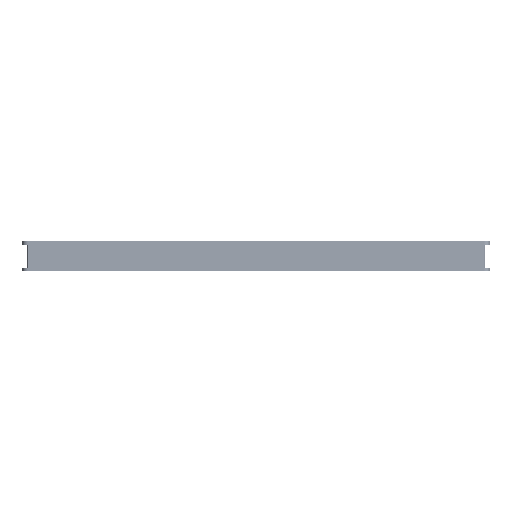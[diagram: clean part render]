
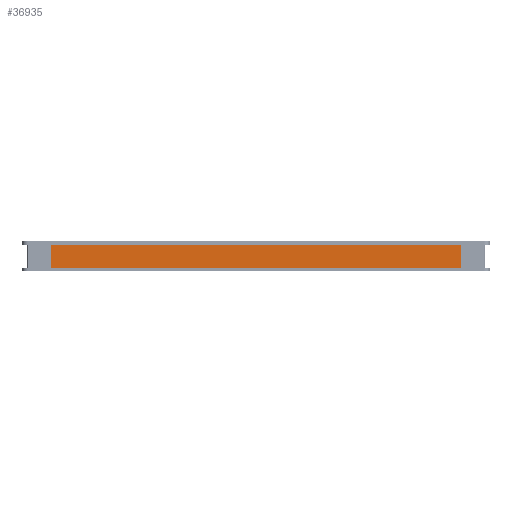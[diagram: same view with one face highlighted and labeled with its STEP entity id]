
A CAD part, left-side view. The second image highlights one B-rep face of the part: STEP entity #36935.
In plain terms, the highlighted planar face has unit normal (-1, 0, 0).
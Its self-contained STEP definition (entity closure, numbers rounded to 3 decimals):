
#69 = DIRECTION ( 'NONE',  ( 1., 0., 0. ) ) ;
#632 = CARTESIAN_POINT ( 'NONE',  ( -625.983, 34.86, -111.545 ) ) ;
#4267 = CARTESIAN_POINT ( 'NONE',  ( -625.983, -348.14, -131.045 ) ) ;
#8107 = VECTOR ( 'NONE', #43111, 1000. ) ;
#9257 = FACE_OUTER_BOUND ( 'NONE', #63412, .T. ) ;
#10263 = LINE ( 'NONE', #69655, #8107 ) ;
#10499 = CARTESIAN_POINT ( 'NONE',  ( -625.983, -348.14, -92.045 ) ) ;
#15235 = VECTOR ( 'NONE', #76000, 1000. ) ;
#16365 = VERTEX_POINT ( 'NONE', #77690 ) ;
#17231 = VERTEX_POINT ( 'NONE', #43569 ) ;
#21397 = VERTEX_POINT ( 'NONE', #10499 ) ;
#21544 = ORIENTED_EDGE ( 'NONE', *, *, #74322, .T. ) ;
#24431 = EDGE_CURVE ( 'NONE', #56958, #16365, #67356, .T. ) ;
#32691 = ORIENTED_EDGE ( 'NONE', *, *, #24431, .T. ) ;
#33701 = LINE ( 'NONE', #54657, #70082 ) ;
#34064 = DIRECTION ( 'NONE',  ( 0., 0., -1. ) ) ;
#36935 = ADVANCED_FACE ( 'NONE', ( #9257 ), #61252, .F. ) ;
#37360 = DIRECTION ( 'NONE',  ( 0., -1., 0. ) ) ;
#40254 = CARTESIAN_POINT ( 'NONE',  ( -625.983, -348.14, -92.045 ) ) ;
#43111 = DIRECTION ( 'NONE',  ( 0., 1., 0. ) ) ;
#43569 = CARTESIAN_POINT ( 'NONE',  ( -625.983, 417.86, -92.045 ) ) ;
#48389 = DIRECTION ( 'NONE',  ( 0., -1., 0. ) ) ;
#52279 = AXIS2_PLACEMENT_3D ( 'NONE', #632, #69, #48389 ) ;
#54657 = CARTESIAN_POINT ( 'NONE',  ( -625.983, 417.86, -92.045 ) ) ;
#56222 = ORIENTED_EDGE ( 'NONE', *, *, #59712, .T. ) ;
#56958 = VERTEX_POINT ( 'NONE', #71799 ) ;
#59712 = EDGE_CURVE ( 'NONE', #21397, #17231, #10263, .T. ) ;
#61252 = PLANE ( 'NONE',  #52279 ) ;
#63412 = EDGE_LOOP ( 'NONE', ( #21544, #32691, #84148, #56222 ) ) ;
#67356 = LINE ( 'NONE', #4267, #69469 ) ;
#69469 = VECTOR ( 'NONE', #37360, 1000. ) ;
#69655 = CARTESIAN_POINT ( 'NONE',  ( -625.983, -348.14, -92.045 ) ) ;
#70082 = VECTOR ( 'NONE', #34064, 1000. ) ;
#71454 = EDGE_CURVE ( 'NONE', #16365, #21397, #76134, .T. ) ;
#71799 = CARTESIAN_POINT ( 'NONE',  ( -625.983, 417.86, -131.045 ) ) ;
#74322 = EDGE_CURVE ( 'NONE', #17231, #56958, #33701, .T. ) ;
#76000 = DIRECTION ( 'NONE',  ( 0., 0., 1. ) ) ;
#76134 = LINE ( 'NONE', #40254, #15235 ) ;
#77690 = CARTESIAN_POINT ( 'NONE',  ( -625.983, -348.14, -131.045 ) ) ;
#84148 = ORIENTED_EDGE ( 'NONE', *, *, #71454, .T. ) ;
